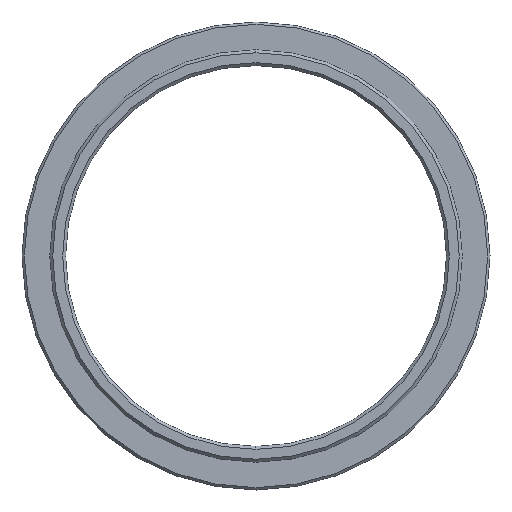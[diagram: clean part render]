
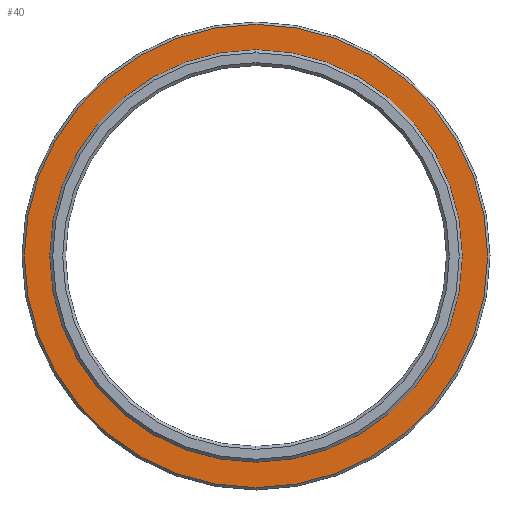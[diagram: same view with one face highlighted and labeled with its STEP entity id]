
A CAD part, left-side view. The second image highlights one B-rep face of the part: STEP entity #40.
In plain terms, the highlighted planar face has unit normal (-1, 0, 0).
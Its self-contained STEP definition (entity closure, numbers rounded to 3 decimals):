
#40 = ADVANCED_FACE ( 'NONE', ( #588, #334 ), #1092, .T. ) ;
#45 = CIRCLE ( 'NONE', #468, 29.2 ) ;
#71 = DIRECTION ( 'NONE',  ( -1., 0., 0. ) ) ;
#113 = DIRECTION ( 'NONE',  ( 1., 0., 0. ) ) ;
#140 = DIRECTION ( 'NONE',  ( 0., 0., -1. ) ) ;
#152 = DIRECTION ( 'NONE',  ( 1., 0., 0. ) ) ;
#163 = CARTESIAN_POINT ( 'NONE',  ( -5., 0., 0. ) ) ;
#198 = CARTESIAN_POINT ( 'NONE',  ( -5., 0., 25.625 ) ) ;
#226 = CARTESIAN_POINT ( 'NONE',  ( -5., 0., 0. ) ) ;
#229 = CIRCLE ( 'NONE', #750, 25.625 ) ;
#247 = CARTESIAN_POINT ( 'NONE',  ( -5., 0., 29.2 ) ) ;
#301 = ORIENTED_EDGE ( 'NONE', *, *, #607, .T. ) ;
#333 = CARTESIAN_POINT ( 'NONE',  ( -5., 25.625, 0. ) ) ;
#334 = FACE_OUTER_BOUND ( 'NONE', #1052, .T. ) ;
#344 = VERTEX_POINT ( 'NONE', #370 ) ;
#358 = AXIS2_PLACEMENT_3D ( 'NONE', #333, #71, #1085 ) ;
#368 = CIRCLE ( 'NONE', #1027, 25.625 ) ;
#370 = CARTESIAN_POINT ( 'NONE',  ( -5., 0., -29.2 ) ) ;
#431 = EDGE_CURVE ( 'NONE', #1017, #344, #45, .T. ) ;
#458 = VERTEX_POINT ( 'NONE', #198 ) ;
#468 = AXIS2_PLACEMENT_3D ( 'NONE', #163, #152, #140 ) ;
#470 = DIRECTION ( 'NONE',  ( 1., 0., 0. ) ) ;
#493 = EDGE_LOOP ( 'NONE', ( #748, #301 ) ) ;
#507 = ORIENTED_EDGE ( 'NONE', *, *, #431, .F. ) ;
#539 = EDGE_CURVE ( 'NONE', #684, #458, #229, .T. ) ;
#588 = FACE_BOUND ( 'NONE', #493, .T. ) ;
#607 = EDGE_CURVE ( 'NONE', #458, #684, #368, .T. ) ;
#626 = DIRECTION ( 'NONE',  ( 0., 0., -1. ) ) ;
#646 = CARTESIAN_POINT ( 'NONE',  ( -5., 0., -25.625 ) ) ;
#670 = DIRECTION ( 'NONE',  ( 0., 0., -1. ) ) ;
#684 = VERTEX_POINT ( 'NONE', #646 ) ;
#715 = CARTESIAN_POINT ( 'NONE',  ( -5., 0., 0. ) ) ;
#748 = ORIENTED_EDGE ( 'NONE', *, *, #539, .T. ) ;
#750 = AXIS2_PLACEMENT_3D ( 'NONE', #1058, #470, #973 ) ;
#826 = CIRCLE ( 'NONE', #1117, 29.2 ) ;
#879 = EDGE_CURVE ( 'NONE', #344, #1017, #826, .T. ) ;
#908 = DIRECTION ( 'NONE',  ( 1., 0., 0. ) ) ;
#972 = ORIENTED_EDGE ( 'NONE', *, *, #879, .F. ) ;
#973 = DIRECTION ( 'NONE',  ( 0., 0., -1. ) ) ;
#1017 = VERTEX_POINT ( 'NONE', #247 ) ;
#1027 = AXIS2_PLACEMENT_3D ( 'NONE', #715, #113, #626 ) ;
#1052 = EDGE_LOOP ( 'NONE', ( #972, #507 ) ) ;
#1058 = CARTESIAN_POINT ( 'NONE',  ( -5., 0., 0. ) ) ;
#1085 = DIRECTION ( 'NONE',  ( 0., 0., 1. ) ) ;
#1092 = PLANE ( 'NONE',  #358 ) ;
#1117 = AXIS2_PLACEMENT_3D ( 'NONE', #226, #908, #670 ) ;
